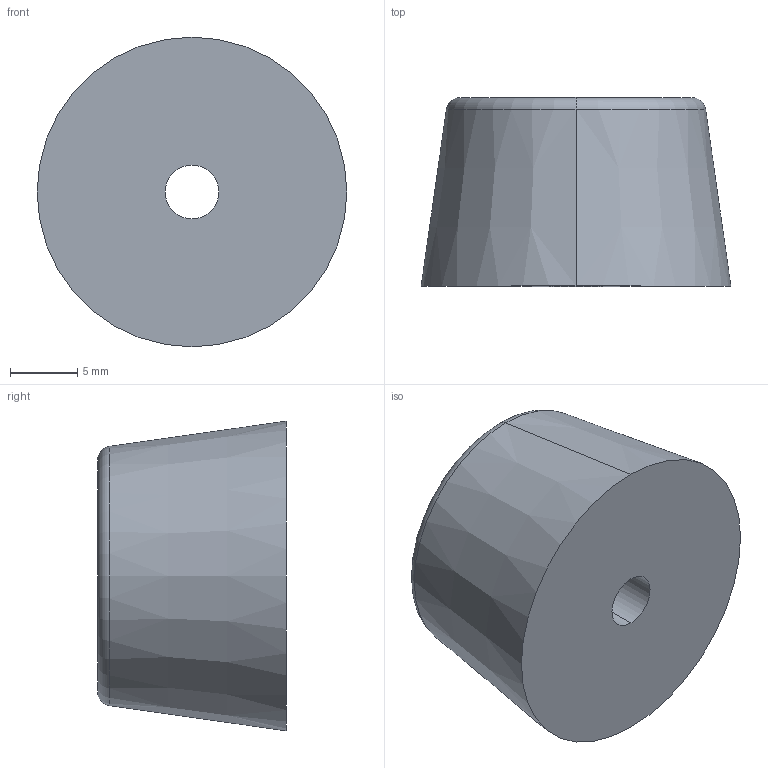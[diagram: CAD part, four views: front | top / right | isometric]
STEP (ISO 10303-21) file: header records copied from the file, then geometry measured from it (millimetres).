
FILE_DESCRIPTION (( 'STEP AP203' ), '1' );
FILE_NAME ('K-23.STEP', '2013-07-15T06:29:19', ( 'SDS' ), ( 'SDS' ), 'SwSTEP 2.0', 'SolidWorks 2002296', '' );
FILE_SCHEMA (( 'CONFIG_CONTROL_DESIGN' ));
Length unit declared in the file: millimetre
Products named in the file (1): K-23
Bounding box: 23 x 14 x 23 mm (x, y, z)
Volume: 4490.3 mm3; surface area: 1827 mm2
Topology: 1 solids, 1 shells, 11 faces, 22 edges, 14 vertices
Faces by surface type: cylinder 4, plane 3, cone 2, torus 2
Entity records: 377 total; most frequent: DIRECTION 62, CARTESIAN_POINT 48, ORIENTED_EDGE 44, AXIS2_PLACEMENT_3D 28, EDGE_CURVE 22, CIRCLE 16, EDGE_LOOP 14, VERTEX_POINT 14
